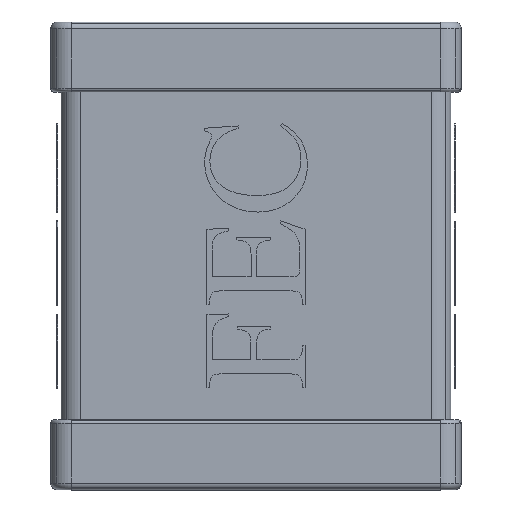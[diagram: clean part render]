
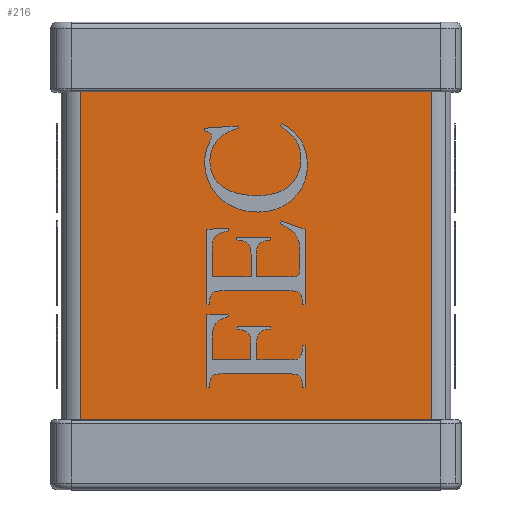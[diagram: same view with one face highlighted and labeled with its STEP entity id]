
A CAD part, top view. The second image highlights one B-rep face of the part: STEP entity #216.
In plain terms, the highlighted planar face has unit normal (0, 0, 1).
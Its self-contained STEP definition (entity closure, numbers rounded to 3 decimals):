
#216=ADVANCED_FACE('',(#1345),#1346,.T.);
#1345=FACE_OUTER_BOUND('',#3564,.T.);
#1346=PLANE('',#3565);
#3564=EDGE_LOOP('',(#5838,#5839,#5840,#5841));
#3565=AXIS2_PLACEMENT_3D('',#5842,#5843,#5844);
#5838=ORIENTED_EDGE('',*,*,#15484,.T.);
#5839=ORIENTED_EDGE('',*,*,#15464,.F.);
#5840=ORIENTED_EDGE('',*,*,#15485,.F.);
#5841=ORIENTED_EDGE('',*,*,#15482,.T.);
#5842=CARTESIAN_POINT('',(-2.138,-0.85,1.188));
#5843=DIRECTION('',(-0.0,0.0,1.0));
#5844=DIRECTION('',(1.0,-0.0,0.0));
#15464=EDGE_CURVE('',#18675,#18677,#18678,.T.);
#15482=EDGE_CURVE('',#18703,#18701,#18704,.T.);
#15484=EDGE_CURVE('',#18701,#18677,#18706,.T.);
#15485=EDGE_CURVE('',#18703,#18675,#18707,.T.);
#18675=VERTEX_POINT('',#23978);
#18677=VERTEX_POINT('',#23980);
#18678=LINE('',#23981,#23982);
#18701=VERTEX_POINT('',#24014);
#18703=VERTEX_POINT('',#24016);
#18704=LINE('',#24017,#24018);
#18706=LINE('',#24020,#24021);
#18707=LINE('',#24022,#24023);
#23978=CARTESIAN_POINT('',(2.138,-0.85,1.188));
#23980=CARTESIAN_POINT('',(2.138,-4.85,1.188));
#23981=CARTESIAN_POINT('',(2.138,-0.85,1.188));
#23982=VECTOR('',#32324,1.0);
#24014=CARTESIAN_POINT('',(-2.138,-4.85,1.188));
#24016=CARTESIAN_POINT('',(-2.138,-0.85,1.188));
#24017=CARTESIAN_POINT('',(-2.138,-0.85,1.188));
#24018=VECTOR('',#32358,1.0);
#24020=CARTESIAN_POINT('',(-2.138,-4.85,1.188));
#24021=VECTOR('',#32362,1.0);
#24022=CARTESIAN_POINT('',(-2.138,-0.85,1.188));
#24023=VECTOR('',#32363,1.0);
#32324=DIRECTION('',(0.0,-1.0,0.0));
#32358=DIRECTION('',(0.0,-1.0,0.0));
#32362=DIRECTION('',(1.0,0.0,0.0));
#32363=DIRECTION('',(1.0,0.0,0.0));
